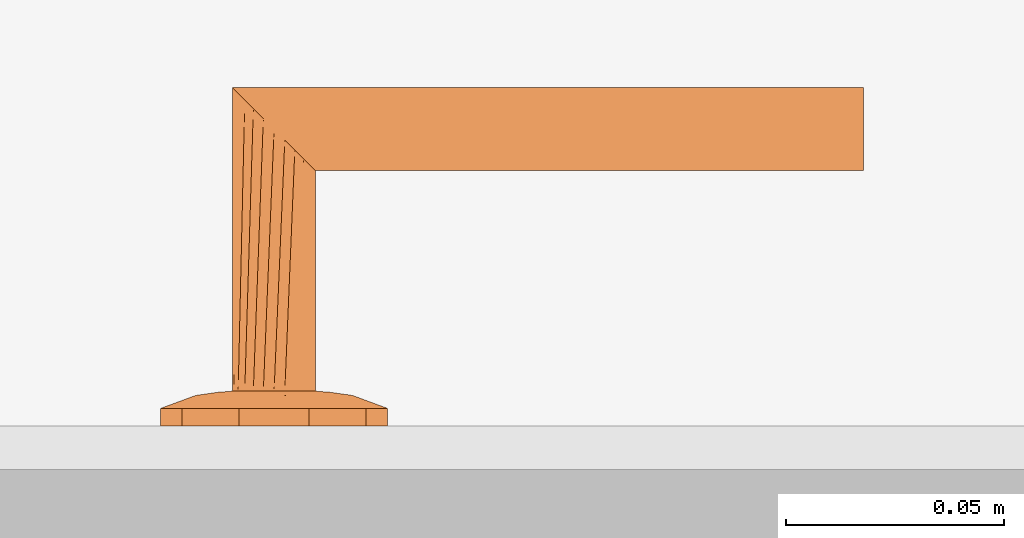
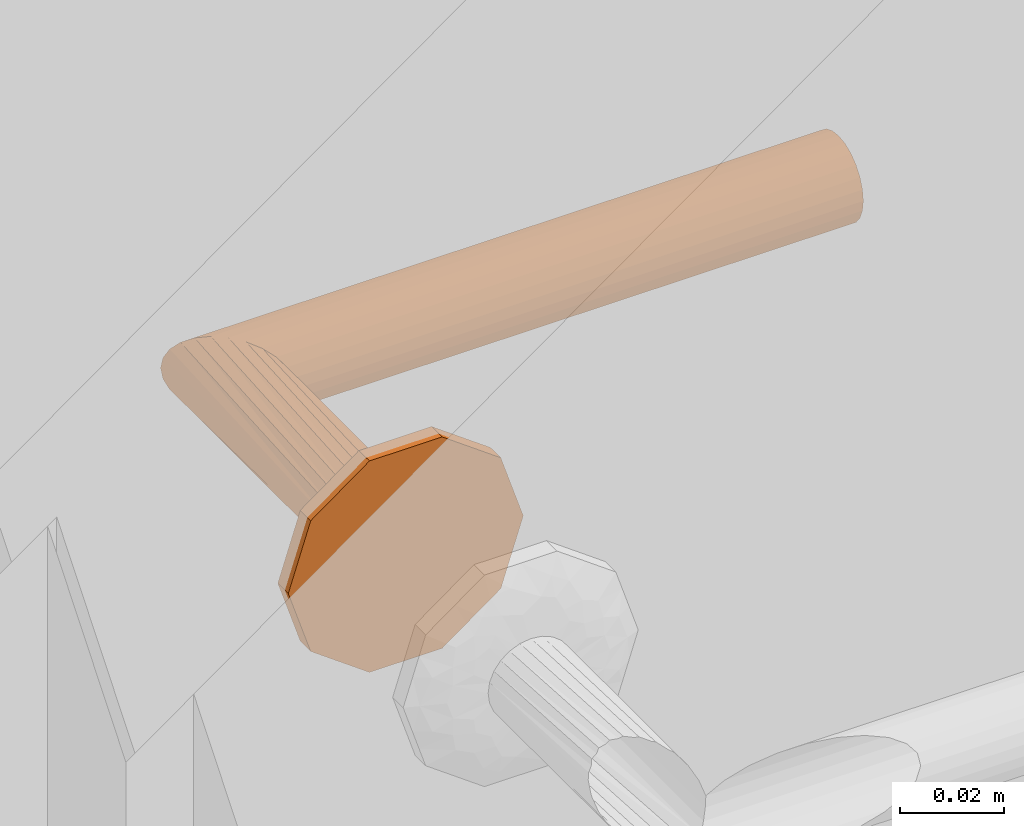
# One storey, part 46 of 55: 1 proxy.
"""IFC2X3 building model written with IfcOpenShell, lengths in millimetres."""

from ifc_helpers import new_model, entity, si_unit, converted_unit, direction, frame, origin, place, context, subcontext, project, spatial, faceted_brep, source, transform, mapped, material, type_object, type_shapes, element, save


model = new_model("IFC2X3")

# Units and contexts
model_context = context("Model", 3, precision=0.01, world=origin(), true_north=direction((6.123233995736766e-17, 1.0)))
plan_context = context("Plan", 3, precision=0.01, world=origin(), true_north=direction((6.123233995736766e-17, 1.0)))
body_context = subcontext(model_context, "Body", "Model", "MODEL_VIEW")
ifc_project = project(units=[si_unit("LENGTHUNIT", "METRE", prefix="MILLI"), converted_unit("PLANEANGLEUNIT", "DEGREE", entity("IfcPlaneAngleMeasure", 0.017453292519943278), si_unit("PLANEANGLEUNIT", "RADIAN"), dimensions=[0, 0, 0, 0, 0, 0, 0]), si_unit("AREAUNIT", "SQUARE_METRE")], contexts=[model_context, plan_context])

# Site, building, storey, space
site_placement = place(None, origin())
site = spatial("IfcSite", under=ifc_project, at=site_placement, Name="Default", CompositionType="ELEMENT")
building_placement = place(site_placement, origin())
building = spatial("IfcBuilding", under=site, at=building_placement, CompositionType="ELEMENT")
storey_placement = place(building_placement, origin())
storey = spatial("IfcBuildingStorey", under=building, at=storey_placement, Name="1K", CompositionType="ELEMENT", Elevation=0.0)
space_placement = place(storey_placement, origin())
space = spatial("IfcSpace", under=storey, at=space_placement, Name="1-0.5", CompositionType="ELEMENT", InteriorOrExteriorSpace="INTERNAL")

# Proxy
ifc_material = material(Name="<Unnamed>")
building_element_proxy_type = type_object("IfcBuildingElementProxyType", Name="Door-handle_Lever_ABLOY_INOXI_3-19ss-002_RT:Default", PredefinedType="NOTDEFINED", material=ifc_material)
shared_shape = source(origin(), body_context, "Body", "Brep", [
    faceted_brep([(0.0, 0.0, 0.0), (21.034441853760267, -15.282416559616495, 0.0), (14.534441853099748, -20.00494299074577, 0.0), (8.034441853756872, -24.72746942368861, 0.0), (0.0, -24.72746942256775, 0.0), (23.51722092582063, -7.6412082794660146, 0.0), (26.0, 0.0, 0.0), (-8.034441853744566, -24.727469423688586, 0.0), (-14.534441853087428, -20.00494299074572, 0.0), (-21.03444185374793, -15.282416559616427, 0.0), (-23.517220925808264, -7.641208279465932, 0.0), (-26.0, 0.0, 0.0), (-23.517220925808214, 7.641208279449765, 0.0), (23.517220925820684, 7.641208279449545, 0.0), (21.034441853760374, 15.282416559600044, 0.0), (14.53444185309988, 20.00494299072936, 0.0), (8.034441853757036, 24.72746942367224, 0.0), (-21.034441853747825, 15.282416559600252, 0.0), (-14.53444185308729, 20.004942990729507, 0.0), (-8.0344418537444, 24.72746942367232, 0.0), (0.0, 24.72746942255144, 0.0), (0.0, 0.0, 8.0), (4.7500000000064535, -8.227241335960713, 8.0), (5.937500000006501, -6.170431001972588, 8.0), (7.125000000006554, -4.113620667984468, 8.0), (8.312500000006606, -2.0568103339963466, 8.0), (9.500000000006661, 0.0, 8.0), (8.312500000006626, 2.056810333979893, 8.0), (2.3750000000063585, -8.227241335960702, 8.0), (0.0, -8.227241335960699, 8.0), (-2.3749999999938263, -8.227241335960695, 8.0), (-4.749999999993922, -8.227241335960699, 8.0), (-5.937499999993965, -6.170431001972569, 8.0), (-7.124999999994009, -4.113620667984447, 8.0), (-8.312499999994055, -2.056810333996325, 8.0), (-9.499999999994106, 0.0, 8.0), (7.125000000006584, 4.113620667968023, 8.0), (5.937500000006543, 6.170431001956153, 8.0), (4.750000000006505, 8.227241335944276, 8.0), (2.3750000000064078, 8.22724133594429, 8.0), (-8.31249999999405, 2.0568103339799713, 8.0), (-7.12499999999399, 4.113620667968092, 8.0), (-5.9374999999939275, 6.170431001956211, 8.0), (-4.74999999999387, 8.227241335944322, 8.0), (0.0, 8.227241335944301, 8.0), (-2.374999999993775, 8.227241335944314, 8.0), (-22.488765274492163, -10.806469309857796, 4.030771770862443), (-16.663919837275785, -7.932665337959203, 6.877259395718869), (-20.643071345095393, -6.292822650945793, 5.929480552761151), (-12.50457926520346, -5.179566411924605, 7.774932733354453), (-16.764060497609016, -3.820257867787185, 7.1747985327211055), (-9.071726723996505, -10.311606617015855, 7.7520782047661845), (-11.963426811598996, -8.625290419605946, 7.618343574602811), (-11.979136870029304, -13.678312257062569, 6.945778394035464), (5.7585542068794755, -20.96753300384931, 5.871476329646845), (0.0, -24.72746942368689, 4.030771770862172), (8.03444185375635, -24.727469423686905, 4.030771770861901), (16.66391982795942, -7.932665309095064, 6.877259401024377), (22.488765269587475, -10.806469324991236, 4.03077177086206), (20.64307133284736, -6.29282258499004, 5.929480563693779), (14.534441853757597, -20.004942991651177, 4.030771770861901), (9.499431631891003, -18.64368355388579, 6.154325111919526), (-15.783149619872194, -11.991003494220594, 6.50080018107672), (-21.034441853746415, -15.282416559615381, 4.030771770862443), (-14.53444185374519, -20.00494299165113, 4.030771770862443), (-23.012042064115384, 0.0, 5.135401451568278), (-23.943088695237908, -6.330522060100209, 4.030771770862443), (11.96342678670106, -8.62529049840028, 7.618343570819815), (12.504579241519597, -5.179566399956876, 7.774932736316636), (16.764060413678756, -3.8202578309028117, 7.17479855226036), (15.783149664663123, -11.991003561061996, 6.50080015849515), (17.985351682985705, 0.0, 6.993737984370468), (23.012042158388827, 0.0, 5.135401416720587), (8.661516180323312, -10.478936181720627, 7.768126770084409), (-8.03444185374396, -24.727469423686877, 4.030771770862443), (-3.3573143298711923, -21.197247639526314, 5.971427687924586), (-9.941915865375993, -17.061976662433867, 6.522757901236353), (-5.973257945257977, -16.430139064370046, 7.110979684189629), (-7.711266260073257, -12.760344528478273, 7.594456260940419), (11.979136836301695, -13.678312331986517, 6.945778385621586), (7.511307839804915, -13.358932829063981, 7.529187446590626), (5.953298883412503, -16.50608604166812, 7.096344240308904), (-1.5654593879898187, -15.307443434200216, 7.519134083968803), (-7.784980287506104, -20.476295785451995, 5.812837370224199), (2.8135289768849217, -17.76392260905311, 6.993737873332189), (-17.98535168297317, 0.0, 6.993737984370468), (-26.0, 0.0, 4.030771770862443), (-23.51722092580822, -7.641208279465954, 4.030771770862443), (23.943088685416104, -6.33052209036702, 4.030771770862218), (24.308823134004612, -5.204907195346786, 4.030771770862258), (26.0, 0.0, 4.030771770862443), (21.03444185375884, -15.282416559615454, 4.030771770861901), (22.617646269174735, -10.40981439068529, 4.030771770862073), (22.488765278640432, 10.806469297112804, 4.030771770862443), (16.66391984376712, 7.932665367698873, 6.877259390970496), (20.643071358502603, 6.292822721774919, 5.929480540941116), (12.504579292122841, 5.179566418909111, 7.774932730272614), (16.764060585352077, 3.8202579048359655, 7.174798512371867), (9.07172672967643, 10.31160659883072, 7.752078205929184), (11.963426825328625, 8.62529034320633, 7.618343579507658), (11.979136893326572, 13.67831220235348, 6.9457784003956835), (-5.758554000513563, 20.96753314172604, 5.8714763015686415), (0.0, 24.72746942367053, 4.030771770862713), (-8.03444185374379, 24.72746942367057, 4.030771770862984), (-16.663919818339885, 7.932665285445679, 6.877259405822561), (-22.48876526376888, 10.806469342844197, 4.030771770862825), (-20.643071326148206, 6.2928225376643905, 5.929480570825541), (-14.534441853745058, 20.004942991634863, 4.030771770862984), (-9.499431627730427, 18.643683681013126, 6.154325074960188), (15.783149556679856, 11.991003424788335, 6.5008002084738), (21.03444185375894, 15.282416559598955, 4.030771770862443), (14.534441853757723, 20.004942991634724, 4.030771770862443), (23.943088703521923, 6.330522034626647, 4.030771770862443), (-11.96342675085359, 8.625290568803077, 7.618343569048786), (-12.504579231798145, 5.179566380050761, 7.77493273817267), (-16.764060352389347, 3.820257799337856, 7.174798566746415), (-15.78314967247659, 11.991003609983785, 6.500800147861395), (-8.661516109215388, 10.478936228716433, 7.768126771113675), (8.034441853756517, 24.727469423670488, 4.030771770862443), (3.3573144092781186, 21.197247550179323, 5.971427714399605), (9.941915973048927, 17.061976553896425, 6.522757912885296), (5.9732581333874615, 16.430139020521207, 7.110979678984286), (7.711266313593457, 12.760344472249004, 7.5944562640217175), (-11.979136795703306, 13.678312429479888, 6.945778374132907), (-7.511307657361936, 13.358932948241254, 7.5291874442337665), (-5.9532988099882, 16.50608628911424, 7.096344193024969), (1.5654596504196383, 15.3074431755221, 7.519134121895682), (7.784980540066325, 20.476295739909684, 5.812837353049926), (-2.81352881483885, 17.76392263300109, 6.993737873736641), (23.51722092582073, 7.6412082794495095, 4.030771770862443), (-23.94308867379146, 6.330522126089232, 4.030771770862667), (-24.308823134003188, 5.20490719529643, 4.030771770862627), (-21.034441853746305, 15.282416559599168, 4.030771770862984), (-22.617646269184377, 10.409814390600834, 4.0307717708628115)], [[[0, 1, 2]], [[0, 2, 3]], [[0, 3, 4]], [[0, 5, 1]], [[0, 6, 5]], [[0, 4, 7]], [[0, 7, 8]], [[0, 8, 9]], [[0, 9, 10]], [[0, 10, 11]], [[0, 11, 12]], [[0, 13, 6]], [[0, 14, 13]], [[0, 15, 14]], [[0, 16, 15]], [[0, 12, 17]], [[0, 17, 18]], [[0, 18, 19]], [[0, 19, 20]], [[0, 20, 16]], [[21, 22, 23]], [[21, 23, 24]], [[21, 24, 25]], [[21, 25, 26]], [[21, 26, 27]], [[21, 28, 22]], [[21, 29, 28]], [[21, 30, 29]], [[21, 31, 30]], [[21, 32, 31]], [[21, 33, 32]], [[21, 34, 33]], [[21, 35, 34]], [[21, 27, 36]], [[21, 36, 37]], [[21, 37, 38]], [[21, 38, 39]], [[21, 40, 35]], [[21, 41, 40]], [[21, 42, 41]], [[21, 43, 42]], [[21, 39, 44]], [[21, 44, 45]], [[21, 45, 43]], [[46, 47, 48]], [[47, 49, 50]], [[49, 33, 34]], [[51, 52, 53]], [[49, 52, 33]], [[48, 47, 50]], [[54, 55, 56]], [[57, 58, 59]], [[56, 60, 61]], [[62, 63, 64]], [[65, 66, 48]], [[67, 57, 68]], [[68, 69, 25]], [[57, 67, 70]], [[69, 26, 25]], [[62, 53, 52]], [[71, 69, 72]], [[67, 23, 73]], [[74, 55, 75]], [[76, 77, 78]], [[79, 60, 70]], [[69, 59, 72]], [[80, 81, 61]], [[77, 30, 78]], [[82, 30, 77]], [[28, 80, 22]], [[77, 83, 75]], [[75, 82, 77]], [[55, 84, 75]], [[85, 50, 35]], [[24, 68, 25]], [[82, 84, 29]], [[84, 82, 75]], [[31, 78, 30]], [[82, 29, 30]], [[34, 35, 50]], [[52, 49, 47]], [[62, 52, 47]], [[34, 50, 49]], [[53, 78, 51]], [[32, 33, 52]], [[85, 65, 50]], [[66, 65, 86]], [[67, 68, 24]], [[77, 76, 83]], [[65, 48, 50]], [[63, 62, 46]], [[48, 66, 87, 46]], [[62, 47, 46]], [[69, 68, 57]], [[80, 73, 22]], [[70, 67, 79]], [[67, 24, 23]], [[72, 88, 89, 90]], [[69, 71, 26]], [[59, 69, 57]], [[61, 60, 79]], [[62, 64, 53]], [[91, 58, 70]], [[72, 59, 88]], [[57, 70, 58]], [[59, 58, 92]], [[80, 61, 79]], [[91, 70, 60]], [[61, 81, 54]], [[73, 80, 79]], [[28, 84, 81]], [[67, 73, 79]], [[29, 84, 28]], [[22, 73, 23]], [[51, 31, 32]], [[76, 78, 53]], [[53, 64, 76]], [[83, 64, 74]], [[64, 83, 76]], [[75, 83, 74]], [[31, 51, 78]], [[52, 51, 32]], [[28, 81, 80]], [[54, 81, 84]], [[55, 54, 84]], [[61, 54, 56]], [[93, 94, 95]], [[94, 96, 97]], [[96, 36, 27]], [[98, 99, 100]], [[96, 99, 36]], [[95, 94, 97]], [[101, 102, 103]], [[104, 105, 106]], [[103, 107, 108]], [[109, 110, 111]], [[72, 112, 95]], [[113, 104, 114]], [[114, 115, 40]], [[104, 113, 116]], [[115, 35, 40]], [[109, 100, 99]], [[85, 115, 65]], [[113, 42, 117]], [[118, 102, 119]], [[120, 121, 122]], [[123, 107, 116]], [[115, 106, 65]], [[124, 125, 108]], [[121, 39, 122]], [[126, 39, 121]], [[45, 124, 43]], [[121, 127, 119]], [[119, 126, 121]], [[102, 128, 119]], [[71, 97, 26]], [[41, 114, 40]], [[126, 128, 44]], [[128, 126, 119]], [[38, 122, 39]], [[126, 44, 39]], [[27, 26, 97]], [[99, 96, 94]], [[109, 99, 94]], [[27, 97, 96]], [[100, 122, 98]], [[37, 36, 99]], [[71, 72, 97]], [[112, 72, 90]], [[113, 114, 41]], [[121, 120, 127]], [[72, 95, 97]], [[110, 109, 93]], [[95, 112, 129, 93]], [[109, 94, 93]], [[115, 114, 104]], [[124, 117, 43]], [[116, 113, 123]], [[113, 41, 42]], [[65, 130, 131, 86]], [[115, 85, 35]], [[106, 115, 104]], [[108, 107, 123]], [[109, 111, 100]], [[132, 105, 116]], [[65, 106, 130]], [[104, 116, 105]], [[106, 105, 133]], [[124, 108, 123]], [[132, 116, 107]], [[108, 125, 101]], [[117, 124, 123]], [[45, 128, 125]], [[113, 117, 123]], [[44, 128, 45]], [[43, 117, 42]], [[98, 38, 37]], [[120, 122, 100]], [[100, 111, 120]], [[127, 111, 118]], [[111, 127, 120]], [[119, 127, 118]], [[38, 98, 122]], [[99, 98, 37]], [[45, 125, 124]], [[101, 125, 128]], [[102, 101, 128]], [[108, 101, 103]], [[7, 74, 64, 63, 9, 8]], [[10, 9, 63, 46, 87, 66, 86, 11]], [[6, 90, 89, 88, 92, 1, 5]], [[1, 58, 91]], [[74, 7, 4, 3, 56, 55]], [[60, 56, 3, 2, 1, 91]], [[1, 92, 58]], [[14, 110, 93, 129, 112, 90, 6, 13]], [[111, 110, 14, 15, 16, 118]], [[11, 86, 131, 130, 133, 17, 12]], [[17, 105, 132]], [[118, 16, 20, 19, 103, 102]], [[107, 103, 19, 18, 17, 132]], [[17, 133, 105]], [[59, 92, 88]], [[106, 133, 130]]]),
    faceted_brep([(4.7499999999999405, -8.22724133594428, 8.0), (2.4587809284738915, -9.176295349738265, 8.0), (0.0, -9.499999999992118, 8.0), (-2.4587809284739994, -9.176295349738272, 8.0), (-4.7500000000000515, -8.227241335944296, 8.0), (-6.717514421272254, -6.717514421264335, 8.0), (-8.227241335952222, -4.74999999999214, 8.0), (-9.176295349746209, -2.4587809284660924, 8.0), (-9.500000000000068, 0.0, 8.0), (-9.176295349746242, 2.458780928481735, 8.0), (-8.227241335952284, 4.750000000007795, 8.0), (-6.717514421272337, 6.717514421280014, 8.0), (-4.750000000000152, 8.227241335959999, 8.0), (-2.4587809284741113, 9.176295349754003, 8.0), (0.0, 9.500000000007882, 8.0), (2.4587809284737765, 9.176295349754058, 8.0), (4.7499999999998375, 8.227241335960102, 8.0), (6.717514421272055, 6.717514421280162, 8.0), (8.22724133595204, 4.75000000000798, 8.0), (9.17629534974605, 2.458780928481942, 8.0), (9.499999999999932, 0.0, 8.0), (9.17629534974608, -2.458780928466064, 8.0), (8.227241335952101, -4.749999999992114, 8.0), (6.717514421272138, -6.7175144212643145, 8.0), (-8.227241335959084, 4.7499999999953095, 59.772758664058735), (-6.717514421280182, 6.7175144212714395, 61.282485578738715), (-9.176295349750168, 2.458780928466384, 58.82370465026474), (-4.750000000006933, 8.227241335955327, 63.25000000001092), (-2.4587809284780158, 9.176295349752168, 65.54121907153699), (-9.500000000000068, 0.0, 58.50000000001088), (0.0, 9.50000000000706, 68.0), (4.750000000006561, 8.227241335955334, 72.75000000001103), (2.4587809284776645, 9.17629534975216, 70.45878092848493), (6.717514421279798, 6.7175144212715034, 74.71751442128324), (8.22724133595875, 4.749999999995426, 76.22724133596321), (9.17629534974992, 2.458780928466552, 77.17629534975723), (9.499999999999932, 0.0, 77.50000000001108), (9.176295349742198, -2.4587809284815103, 77.1762953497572), (8.227241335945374, -4.750000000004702, 76.22724133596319), (6.7175144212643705, -6.717514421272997, 74.7175144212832), (4.749999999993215, -8.227241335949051, 72.75000000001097), (2.4587809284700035, -9.17629534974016, 70.45878092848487), (0.0, -9.49999999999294, 68.0), (-2.4587809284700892, -9.176295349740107, 65.54121907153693), (-4.749999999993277, -8.227241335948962, 63.250000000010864), (-6.717514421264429, -6.717514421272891, 61.282485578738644), (-9.176295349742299, -2.458780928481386, 58.8237046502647), (-8.227241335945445, -4.750000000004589, 59.77275866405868), (-135.0, -9.176295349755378, 70.4587809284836), (-135.0, -8.227241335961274, 72.75000000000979), (-135.0, -6.717514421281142, 74.71751442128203), (-135.0, -4.750000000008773, 76.22724133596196), (-135.0, -2.4587809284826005, 77.17629534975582), (-135.0, 0.0, 77.5000000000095), (-135.0, 2.4587809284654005, 77.17629534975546), (-135.0, 4.749999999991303, 76.22724133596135), (-135.0, 6.717514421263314, 74.71751442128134), (-135.0, 8.227241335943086, 72.75000000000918), (-135.0, 9.17629534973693, 70.45878092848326), (-135.0, 9.499999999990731, 68.0), (-135.0, 9.17629534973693, 65.54121907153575), (-135.0, 8.227241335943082, 63.250000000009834), (-135.0, 6.717514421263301, 61.28248557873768), (-135.0, 4.749999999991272, 59.772758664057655), (-135.0, 2.458780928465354, 58.823704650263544), (-135.0, 0.0, 58.50000000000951), (-135.0, -2.458780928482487, 58.82370465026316), (-135.0, -4.750000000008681, 59.772758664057), (-135.0, -6.7175144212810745, 61.28248557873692), (-135.0, -8.227241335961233, 63.25000000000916), (-135.0, -9.176295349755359, 65.54121907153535), (-135.0, -9.500000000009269, 68.0)], [[[0, 1, 2, 3, 4, 5, 6, 7, 8, 9, 10, 11, 12, 13, 14, 15, 16, 17, 18, 19, 20, 21, 22, 23]], [[24, 25, 11, 10]], [[26, 24, 10, 9]], [[14, 27, 28]], [[13, 27, 14]], [[25, 27, 13]], [[29, 26, 9, 8]], [[12, 11, 25]], [[25, 13, 12]], [[28, 30, 15]], [[31, 17, 32]], [[33, 18, 31]], [[19, 34, 35]], [[33, 34, 19]], [[20, 19, 35, 36]], [[16, 15, 30]], [[14, 28, 15]], [[19, 18, 33]], [[17, 31, 18]], [[17, 16, 32]], [[30, 32, 16]], [[20, 36, 37, 21]], [[38, 21, 37]], [[22, 39, 40]], [[38, 39, 21]], [[23, 40, 41]], [[39, 22, 21]], [[1, 42, 43]], [[42, 1, 0]], [[23, 41, 0]], [[23, 22, 40]], [[41, 42, 0]], [[44, 45, 3]], [[43, 44, 2]], [[46, 29, 8, 7]], [[47, 46, 7, 6]], [[45, 47, 6, 5]], [[45, 4, 3]], [[3, 2, 44]], [[5, 4, 45]], [[43, 2, 1]], [[48, 49, 50, 51, 52, 53, 54, 55, 56, 57, 58, 59, 60, 61, 62, 63, 64, 65, 66, 67, 68, 69, 70, 71]], [[64, 63, 24, 26]], [[65, 64, 26, 29]], [[61, 60, 28, 27]], [[62, 61, 27, 25]], [[63, 62, 25, 24]], [[59, 30, 28, 60]], [[57, 56, 33, 31]], [[58, 57, 31, 32]], [[54, 53, 36, 35]], [[55, 54, 35, 34]], [[56, 55, 34, 33]], [[32, 30, 59, 58]], [[52, 51, 38, 37]], [[53, 52, 37, 36]], [[49, 48, 41, 40]], [[50, 49, 40, 39]], [[51, 50, 39, 38]], [[42, 41, 48, 71]], [[69, 68, 45, 44]], [[70, 69, 44, 43]], [[66, 65, 29, 46]], [[67, 66, 46, 47]], [[68, 67, 47, 45]], [[42, 71, 70, 43]]]),
])
type_shapes(building_element_proxy_type, [shared_shape])
proxy_placement = place(space_placement, frame((15950.0, 3109.9999594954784, 1000.0), z_axis=(0.0, 1.0, 0.0), x_axis=(-1.0, 0.0, 0.0)))
element("IfcBuildingElementProxy", 1, at=proxy_placement, inside=space, type_object=building_element_proxy_type, material=ifc_material, Name="Door-handle_Lever_ABLOY_INOXI_3-19ss-002_RT:Default", ObjectType="Door-handle_Lever_ABLOY_INOXI_3-19ss-002_RT:Default", context=body_context, shape_type="MappedRepresentation", body=[
    mapped(shared_shape, transform((0.0, 0.0, 0.0), scale=1.0)),
])

save(model, "model.ifc")
